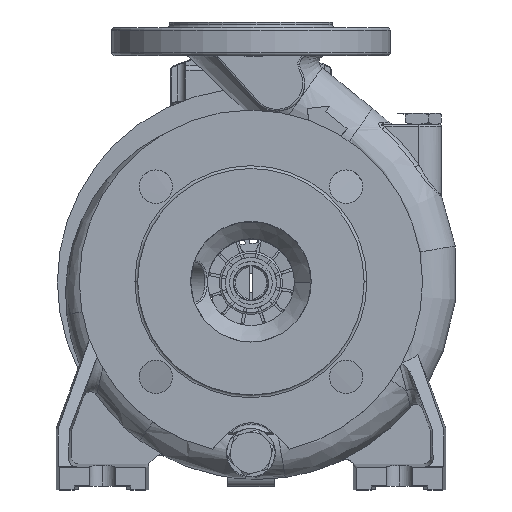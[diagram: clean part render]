
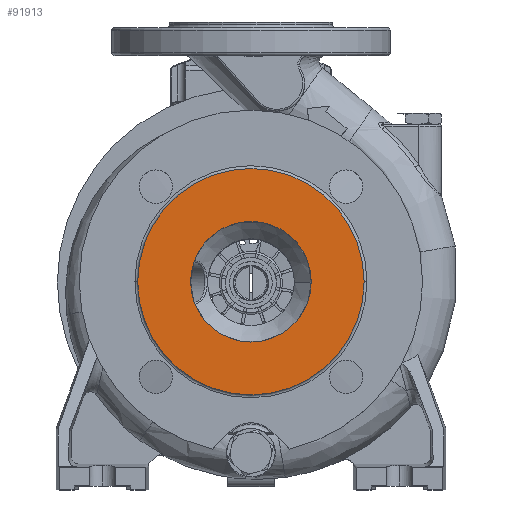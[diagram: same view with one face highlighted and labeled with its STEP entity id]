
A CAD part, top view. The second image highlights one B-rep face of the part: STEP entity #91913.
In plain terms, the highlighted planar face has unit normal (0, 0, 1).
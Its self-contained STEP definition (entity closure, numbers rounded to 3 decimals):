
#3708 = CIRCLE ( 'NONE', #15237, 32.5 ) ;
#5317 = AXIS2_PLACEMENT_3D ( 'NONE', #22884, #11533, #31816 ) ;
#5551 = EDGE_CURVE ( 'NONE', #11939, #97335, #80338, .T. ) ;
#11533 = DIRECTION ( 'NONE',  ( 0., 0., 1. ) ) ;
#11939 = VERTEX_POINT ( 'NONE', #36260 ) ;
#13326 = FACE_OUTER_BOUND ( 'NONE', #37189, .T. ) ;
#15090 = DIRECTION ( 'NONE',  ( 0., 0., 1. ) ) ;
#15237 = AXIS2_PLACEMENT_3D ( 'NONE', #64657, #101092, #19234 ) ;
#17419 = AXIS2_PLACEMENT_3D ( 'NONE', #92261, #91667, #19974 ) ;
#19234 = DIRECTION ( 'NONE',  ( 1., 0., 0. ) ) ;
#19504 = DIRECTION ( 'NONE',  ( 0., 0., 1. ) ) ;
#19974 = DIRECTION ( 'NONE',  ( 1., 0., 0. ) ) ;
#22884 = CARTESIAN_POINT ( 'NONE',  ( 0., 28.891, 80. ) ) ;
#30047 = FACE_BOUND ( 'NONE', #117284, .T. ) ;
#31107 = CIRCLE ( 'NONE', #78776, 61. ) ;
#31816 = DIRECTION ( 'NONE',  ( 1., 0., 0. ) ) ;
#36260 = CARTESIAN_POINT ( 'NONE',  ( -32.5, 0., 80. ) ) ;
#37189 = EDGE_LOOP ( 'NONE', ( #52978, #82567 ) ) ;
#39614 = PLANE ( 'NONE',  #5317 ) ;
#42317 = CARTESIAN_POINT ( 'NONE',  ( 61., 0., 80. ) ) ;
#46362 = CARTESIAN_POINT ( 'NONE',  ( -61., 0., 80. ) ) ;
#52978 = ORIENTED_EDGE ( 'NONE', *, *, #84551, .T. ) ;
#54051 = CARTESIAN_POINT ( 'NONE',  ( 32.5, 0., 80. ) ) ;
#64657 = CARTESIAN_POINT ( 'NONE',  ( 0., 0., 80. ) ) ;
#65732 = EDGE_CURVE ( 'NONE', #106934, #98167, #31107, .T. ) ;
#66120 = CARTESIAN_POINT ( 'NONE',  ( 0., 0., 80. ) ) ;
#66386 = EDGE_CURVE ( 'NONE', #97335, #11939, #3708, .T. ) ;
#78776 = AXIS2_PLACEMENT_3D ( 'NONE', #66120, #19504, #102548 ) ;
#80338 = CIRCLE ( 'NONE', #17419, 32.5 ) ;
#82567 = ORIENTED_EDGE ( 'NONE', *, *, #65732, .T. ) ;
#84551 = EDGE_CURVE ( 'NONE', #98167, #106934, #89318, .T. ) ;
#89318 = CIRCLE ( 'NONE', #104641, 61. ) ;
#91667 = DIRECTION ( 'NONE',  ( 0., 0., -1. ) ) ;
#91913 = ADVANCED_FACE ( 'NONE', ( #30047, #13326 ), #39614, .T. ) ;
#92261 = CARTESIAN_POINT ( 'NONE',  ( 0., 0., 80. ) ) ;
#96460 = ORIENTED_EDGE ( 'NONE', *, *, #5551, .T. ) ;
#97335 = VERTEX_POINT ( 'NONE', #54051 ) ;
#98167 = VERTEX_POINT ( 'NONE', #42317 ) ;
#101092 = DIRECTION ( 'NONE',  ( 0., 0., -1. ) ) ;
#102548 = DIRECTION ( 'NONE',  ( 1., 0., 0. ) ) ;
#104641 = AXIS2_PLACEMENT_3D ( 'NONE', #105903, #15090, #116071 ) ;
#105903 = CARTESIAN_POINT ( 'NONE',  ( 0., 0., 80. ) ) ;
#106934 = VERTEX_POINT ( 'NONE', #46362 ) ;
#113516 = ORIENTED_EDGE ( 'NONE', *, *, #66386, .T. ) ;
#116071 = DIRECTION ( 'NONE',  ( 1., 0., 0. ) ) ;
#117284 = EDGE_LOOP ( 'NONE', ( #96460, #113516 ) ) ;
